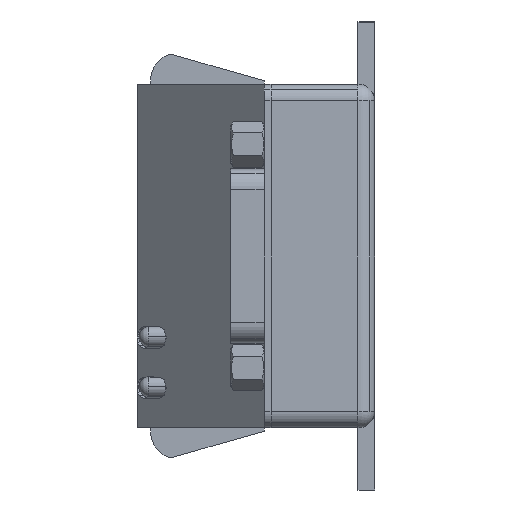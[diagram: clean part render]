
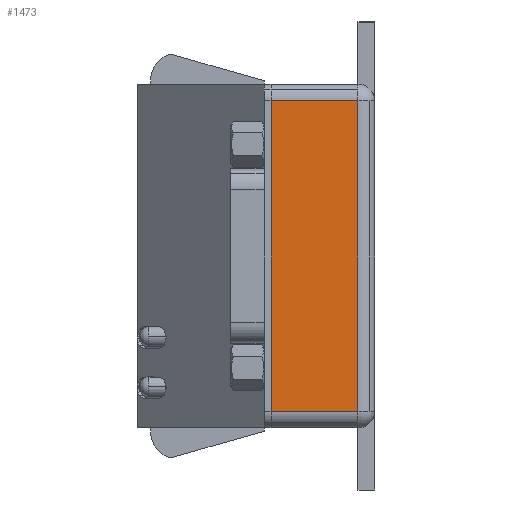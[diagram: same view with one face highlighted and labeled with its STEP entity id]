
A CAD part, left-side view. The second image highlights one B-rep face of the part: STEP entity #1473.
In plain terms, the highlighted planar face has unit normal (-1, 0, 0).
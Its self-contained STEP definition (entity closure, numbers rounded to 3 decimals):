
#1473=ADVANCED_FACE('',(#3472),#3473,.F.);
#3472=FACE_OUTER_BOUND('',#6248,.T.);
#3473=PLANE('',#6249);
#6248=EDGE_LOOP('',(#11876,#11877,#11878,#11879));
#6249=AXIS2_PLACEMENT_3D('',#11880,#11881,#11882);
#11876=ORIENTED_EDGE('',*,*,#17441,.F.);
#11877=ORIENTED_EDGE('',*,*,#17442,.F.);
#11878=ORIENTED_EDGE('',*,*,#17443,.F.);
#11879=ORIENTED_EDGE('',*,*,#17444,.F.);
#11880=CARTESIAN_POINT('',(0.,-7.75,-25.7));
#11881=DIRECTION('',(1.0,0.,0.));
#11882=DIRECTION('',(0.,-1.0,0.));
#17441=EDGE_CURVE('',#19440,#19441,#19442,.T.);
#17442=EDGE_CURVE('',#19443,#19440,#19444,.T.);
#17443=EDGE_CURVE('',#19445,#19443,#19446,.T.);
#17444=EDGE_CURVE('',#19441,#19445,#19447,.T.);
#19440=VERTEX_POINT('',#22357);
#19441=VERTEX_POINT('',#22358);
#19442=LINE('',#22359,#22360);
#19443=VERTEX_POINT('',#22361);
#19444=LINE('',#22362,#22363);
#19445=VERTEX_POINT('',#22364);
#19446=LINE('',#22365,#22366);
#19447=LINE('',#22367,#22368);
#22357=CARTESIAN_POINT('',(0.,-13.,-2.5));
#22358=CARTESIAN_POINT('',(0.,-13.,-48.9));
#22359=CARTESIAN_POINT('',(0.,-13.,-40.875));
#22360=VECTOR('',#28940,1.0);
#22361=CARTESIAN_POINT('',(0.,0.,-2.5));
#22362=CARTESIAN_POINT('',(0.,-7.75,-2.5));
#22363=VECTOR('',#28941,1.0);
#22364=CARTESIAN_POINT('',(0.,0.,-48.9));
#22365=CARTESIAN_POINT('',(0.,0.,-25.7));
#22366=VECTOR('',#28942,1.0);
#22367=CARTESIAN_POINT('',(0.,-7.75,-48.9));
#22368=VECTOR('',#28943,1.0);
#28940=DIRECTION('',(0.,0.,-1.0));
#28941=DIRECTION('',(0.,-1.0,0.));
#28942=DIRECTION('',(0.,0.,1.0));
#28943=DIRECTION('',(0.,1.0,0.));
